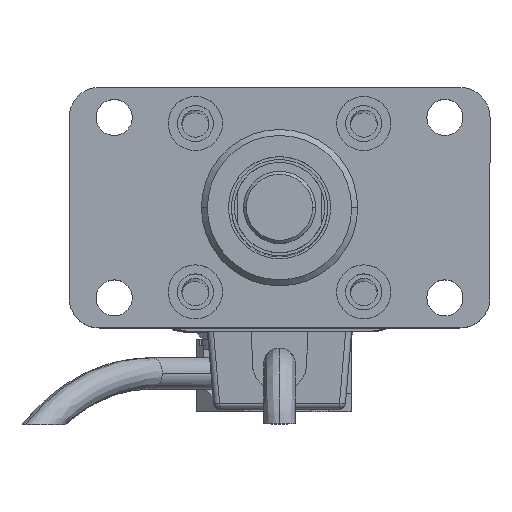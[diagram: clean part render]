
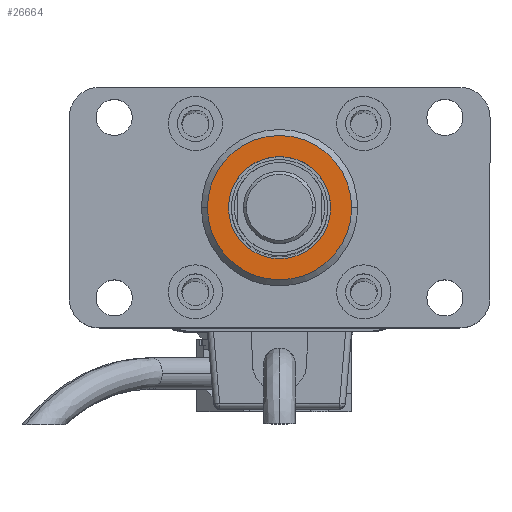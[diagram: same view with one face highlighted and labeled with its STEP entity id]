
A CAD part, top view. The second image highlights one B-rep face of the part: STEP entity #26664.
In plain terms, the highlighted planar face has unit normal (0, 0, 1) as drawn and (0, 0, -1) by its records, which use the part's own axes.
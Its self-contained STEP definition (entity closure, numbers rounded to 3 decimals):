
#767 = CIRCLE ( 'NONE', #3552, 8.5 ) ;
#1746 = FACE_BOUND ( 'NONE', #6281, .T. ) ;
#1800 = AXIS2_PLACEMENT_3D ( 'NONE', #12599, #27952, #14804 ) ;
#1836 = VERTEX_POINT ( 'NONE', #2799 ) ;
#1899 = CIRCLE ( 'NONE', #5531, 12. ) ;
#2799 = CARTESIAN_POINT ( 'NONE',  ( -8.5, 0., -3. ) ) ;
#3046 = DIRECTION ( 'NONE',  ( 0., 0., -1. ) ) ;
#3552 = AXIS2_PLACEMENT_3D ( 'NONE', #13924, #20444, #7091 ) ;
#4984 = CARTESIAN_POINT ( 'NONE',  ( 0., 0., -3. ) ) ;
#5531 = AXIS2_PLACEMENT_3D ( 'NONE', #4984, #15970, #11446 ) ;
#6281 = EDGE_LOOP ( 'NONE', ( #25689, #19259 ) ) ;
#6827 = ORIENTED_EDGE ( 'NONE', *, *, #15335, .T. ) ;
#7091 = DIRECTION ( 'NONE',  ( -1., 0., 0. ) ) ;
#7345 = EDGE_LOOP ( 'NONE', ( #6827, #18619 ) ) ;
#7686 = DIRECTION ( 'NONE',  ( -1., 0., 0. ) ) ;
#9524 = AXIS2_PLACEMENT_3D ( 'NONE', #11814, #11106, #20624 ) ;
#9826 = VERTEX_POINT ( 'NONE', #13777 ) ;
#10651 = CIRCLE ( 'NONE', #11307, 8.5 ) ;
#11106 = DIRECTION ( 'NONE',  ( 0., 0., -1. ) ) ;
#11307 = AXIS2_PLACEMENT_3D ( 'NONE', #12197, #3046, #7686 ) ;
#11446 = DIRECTION ( 'NONE',  ( -1., 0., 0. ) ) ;
#11814 = CARTESIAN_POINT ( 'NONE',  ( 0., 0., -3. ) ) ;
#12197 = CARTESIAN_POINT ( 'NONE',  ( 0., 0., -3. ) ) ;
#12599 = CARTESIAN_POINT ( 'NONE',  ( 0., 0., -3. ) ) ;
#13767 = CARTESIAN_POINT ( 'NONE',  ( 12., 0., -3. ) ) ;
#13777 = CARTESIAN_POINT ( 'NONE',  ( -12., 0., -3. ) ) ;
#13924 = CARTESIAN_POINT ( 'NONE',  ( 0., 0., -3. ) ) ;
#14750 = CIRCLE ( 'NONE', #1800, 12. ) ;
#14804 = DIRECTION ( 'NONE',  ( -1., 0., 0. ) ) ;
#15331 = VERTEX_POINT ( 'NONE', #13767 ) ;
#15335 = EDGE_CURVE ( 'NONE', #15331, #9826, #1899, .T. ) ;
#15970 = DIRECTION ( 'NONE',  ( 0., 0., -1. ) ) ;
#16212 = CARTESIAN_POINT ( 'NONE',  ( 8.5, 0., -3. ) ) ;
#17902 = FACE_OUTER_BOUND ( 'NONE', #7345, .T. ) ;
#18619 = ORIENTED_EDGE ( 'NONE', *, *, #27466, .T. ) ;
#19259 = ORIENTED_EDGE ( 'NONE', *, *, #24343, .F. ) ;
#20444 = DIRECTION ( 'NONE',  ( 0., 0., -1. ) ) ;
#20624 = DIRECTION ( 'NONE',  ( -1., 0., 0. ) ) ;
#22062 = PLANE ( 'NONE',  #9524 ) ;
#23374 = EDGE_CURVE ( 'NONE', #28157, #1836, #767, .T. ) ;
#24343 = EDGE_CURVE ( 'NONE', #1836, #28157, #10651, .T. ) ;
#25689 = ORIENTED_EDGE ( 'NONE', *, *, #23374, .F. ) ;
#26664 = ADVANCED_FACE ( 'NONE', ( #17902, #1746 ), #22062, .T. ) ;
#27466 = EDGE_CURVE ( 'NONE', #9826, #15331, #14750, .T. ) ;
#27952 = DIRECTION ( 'NONE',  ( 0., 0., -1. ) ) ;
#28157 = VERTEX_POINT ( 'NONE', #16212 ) ;
